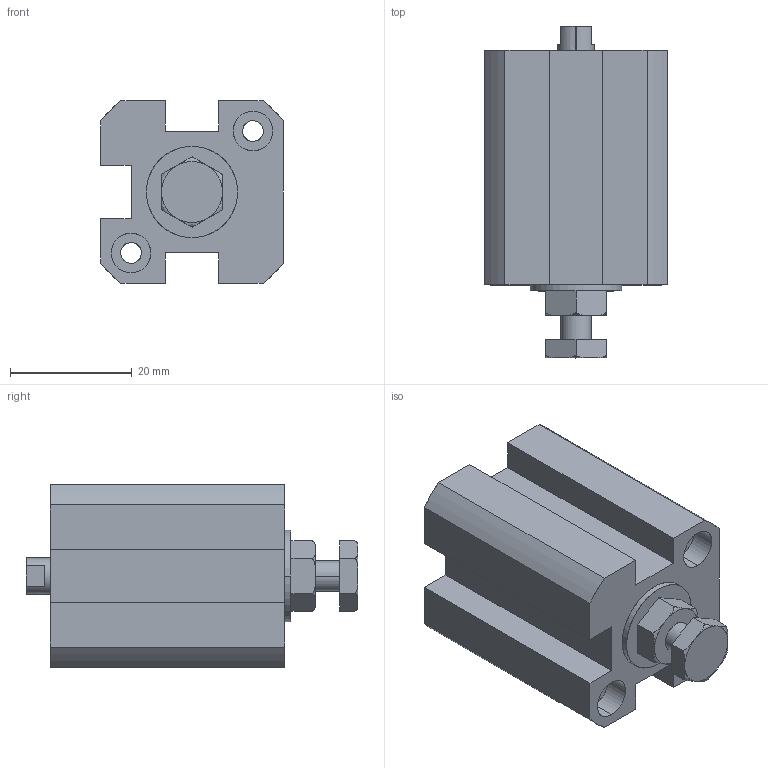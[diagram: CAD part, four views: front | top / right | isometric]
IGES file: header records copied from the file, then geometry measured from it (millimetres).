
Start section: SolidWorks IGES file using analytic representation for surfaces
Global section: file name: C:\Users\Toshiba\Desktop\XGA2-16-10.IGS; native system: SolidWorks 2014; preprocessor: SolidWorks 2014; author: Toshiba; date: 160524.103925; units: millimetre
Bounding box: 30 x 54.5 x 30 mm (x, y, z)
Surface area: 9391.7 mm2 (no closed solid volume)
Topology: 0 solids, 0 shells, 110 faces, 1783 edges, 1777 vertices
Faces by surface type: bspline 61, revolution 49
